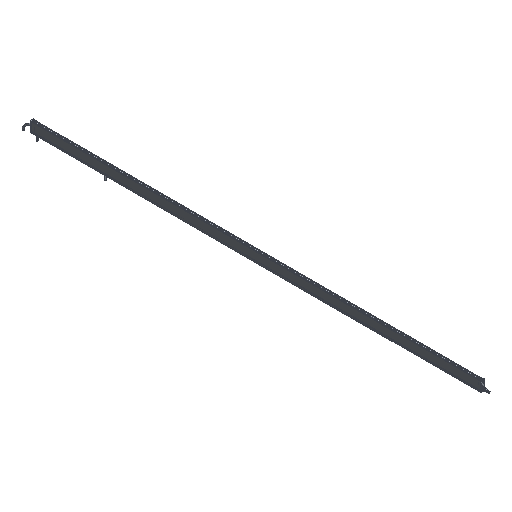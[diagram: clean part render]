
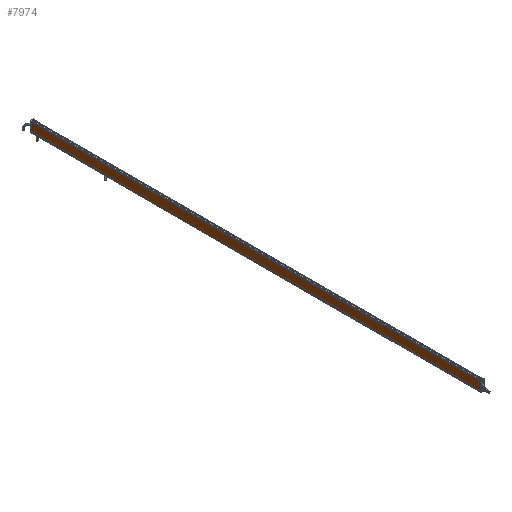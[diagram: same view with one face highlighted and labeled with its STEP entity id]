
A CAD part, isometric view. The second image highlights one B-rep face of the part: STEP entity #7974.
In plain terms, the highlighted planar face has unit normal (-1, 0, 0).
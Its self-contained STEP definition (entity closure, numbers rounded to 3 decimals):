
#1045 = CARTESIAN_POINT ( 'NONE',  ( -9., 1315., 28.5 ) ) ;
#1286 = CARTESIAN_POINT ( 'NONE',  ( -9., 1315., 28.5 ) ) ;
#1322 = DIRECTION ( 'NONE',  ( -1., 0., 0. ) ) ;
#1585 = ORIENTED_EDGE ( 'NONE', *, *, #12141, .F. ) ;
#2251 = LINE ( 'NONE', #1286, #15724 ) ;
#2883 = LINE ( 'NONE', #6442, #4349 ) ;
#3061 = ORIENTED_EDGE ( 'NONE', *, *, #13691, .F. ) ;
#3085 = LINE ( 'NONE', #4276, #10286 ) ;
#3349 = ORIENTED_EDGE ( 'NONE', *, *, #9161, .T. ) ;
#3537 = VERTEX_POINT ( 'NONE', #6425 ) ;
#4276 = CARTESIAN_POINT ( 'NONE',  ( -9., 0., 28.5 ) ) ;
#4349 = VECTOR ( 'NONE', #10964, 1000. ) ;
#4668 = VERTEX_POINT ( 'NONE', #6344 ) ;
#5877 = FACE_OUTER_BOUND ( 'NONE', #17528, .T. ) ;
#6344 = CARTESIAN_POINT ( 'NONE',  ( -9., 0., 0.5 ) ) ;
#6425 = CARTESIAN_POINT ( 'NONE',  ( -9., 0., 28.5 ) ) ;
#6442 = CARTESIAN_POINT ( 'NONE',  ( -9., 1315., 0.5 ) ) ;
#6590 = LINE ( 'NONE', #10757, #8605 ) ;
#7289 = DIRECTION ( 'NONE',  ( 0., 0., -1. ) ) ;
#7529 = DIRECTION ( 'NONE',  ( 0., 0., -1. ) ) ;
#7974 = ADVANCED_FACE ( 'NONE', ( #5877 ), #10544, .T. ) ;
#8209 = CARTESIAN_POINT ( 'NONE',  ( -9., 1315., 0.5 ) ) ;
#8605 = VECTOR ( 'NONE', #18751, 1000. ) ;
#9161 = EDGE_CURVE ( 'NONE', #14880, #4668, #2883, .T. ) ;
#10286 = VECTOR ( 'NONE', #7529, 1000. ) ;
#10544 = PLANE ( 'NONE',  #10781 ) ;
#10757 = CARTESIAN_POINT ( 'NONE',  ( -9., 1315., 28.5 ) ) ;
#10781 = AXIS2_PLACEMENT_3D ( 'NONE', #1045, #1322, #17012 ) ;
#10964 = DIRECTION ( 'NONE',  ( 0., -1., 0. ) ) ;
#12141 = EDGE_CURVE ( 'NONE', #3537, #4668, #3085, .T. ) ;
#13691 = EDGE_CURVE ( 'NONE', #13907, #3537, #6590, .T. ) ;
#13907 = VERTEX_POINT ( 'NONE', #14491 ) ;
#14491 = CARTESIAN_POINT ( 'NONE',  ( -9., 1315., 28.5 ) ) ;
#14880 = VERTEX_POINT ( 'NONE', #8209 ) ;
#15724 = VECTOR ( 'NONE', #7289, 1000. ) ;
#15902 = EDGE_CURVE ( 'NONE', #13907, #14880, #2251, .T. ) ;
#17012 = DIRECTION ( 'NONE',  ( 0., -1., 0. ) ) ;
#17528 = EDGE_LOOP ( 'NONE', ( #1585, #3061, #20394, #3349 ) ) ;
#18751 = DIRECTION ( 'NONE',  ( 0., -1., 0. ) ) ;
#20394 = ORIENTED_EDGE ( 'NONE', *, *, #15902, .T. ) ;
